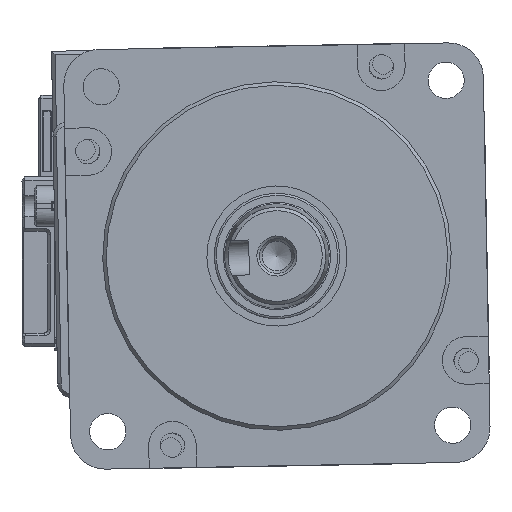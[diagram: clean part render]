
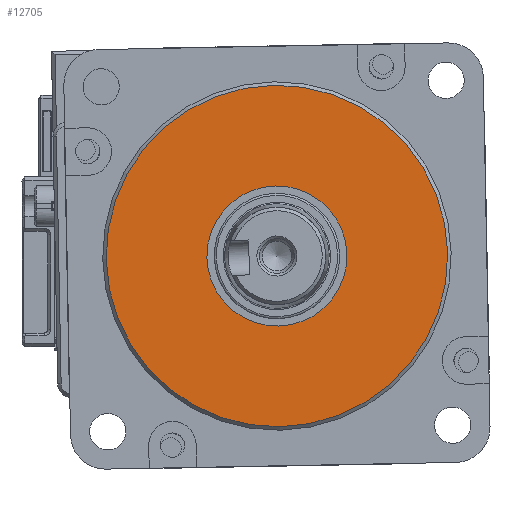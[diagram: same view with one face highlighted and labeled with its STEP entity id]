
A CAD part, left-side view. The second image highlights one B-rep face of the part: STEP entity #12705.
In plain terms, the highlighted planar face has unit normal (-1, 0, 0) as drawn and (0, 0, -1) by its records, which use the part's own axes.
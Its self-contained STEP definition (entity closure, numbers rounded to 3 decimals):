
#349 = ORIENTED_EDGE ( 'NONE', *, *, #49884, .T. ) ;
#4658 = CARTESIAN_POINT ( 'NONE',  ( 24.5, 0., 0. ) ) ;
#5112 = CARTESIAN_POINT ( 'NONE',  ( 0., 0., 0. ) ) ;
#5770 = CARTESIAN_POINT ( 'NONE',  ( 10.051, 0., 0. ) ) ;
#5860 = DIRECTION ( 'NONE',  ( 0., 0., 1. ) ) ;
#10275 = DIRECTION ( 'NONE',  ( 1., 0., 0. ) ) ;
#12705 = ADVANCED_FACE ( 'NONE', ( #44191, #49717 ), #71442, .F. ) ;
#16057 = CARTESIAN_POINT ( 'NONE',  ( 0., 0., 0. ) ) ;
#16800 = DIRECTION ( 'NONE',  ( 1., 0., 0. ) ) ;
#20179 = VERTEX_POINT ( 'NONE', #4658 ) ;
#23011 = AXIS2_PLACEMENT_3D ( 'NONE', #5112, #5860, #10275 ) ;
#23483 = VERTEX_POINT ( 'NONE', #5770 ) ;
#28126 = DIRECTION ( 'NONE',  ( 1., 0., 0. ) ) ;
#33762 = DIRECTION ( 'NONE',  ( 0., 0., -1. ) ) ;
#40964 = EDGE_LOOP ( 'NONE', ( #70849 ) ) ;
#44191 = FACE_OUTER_BOUND ( 'NONE', #46043, .T. ) ;
#44448 = AXIS2_PLACEMENT_3D ( 'NONE', #16057, #33762, #16800 ) ;
#46043 = EDGE_LOOP ( 'NONE', ( #349 ) ) ;
#49717 = FACE_BOUND ( 'NONE', #40964, .T. ) ;
#49884 = EDGE_CURVE ( 'NONE', #20179, #20179, #60906, .T. ) ;
#60345 = EDGE_CURVE ( 'NONE', #23483, #23483, #66449, .T. ) ;
#60906 = CIRCLE ( 'NONE', #44448, 24.5 ) ;
#61803 = AXIS2_PLACEMENT_3D ( 'NONE', #67865, #61986, #28126 ) ;
#61986 = DIRECTION ( 'NONE',  ( 0., 0., 1. ) ) ;
#66449 = CIRCLE ( 'NONE', #61803, 10.051 ) ;
#67865 = CARTESIAN_POINT ( 'NONE',  ( 0., 0., 0. ) ) ;
#70849 = ORIENTED_EDGE ( 'NONE', *, *, #60345, .T. ) ;
#71442 = PLANE ( 'NONE',  #23011 ) ;
